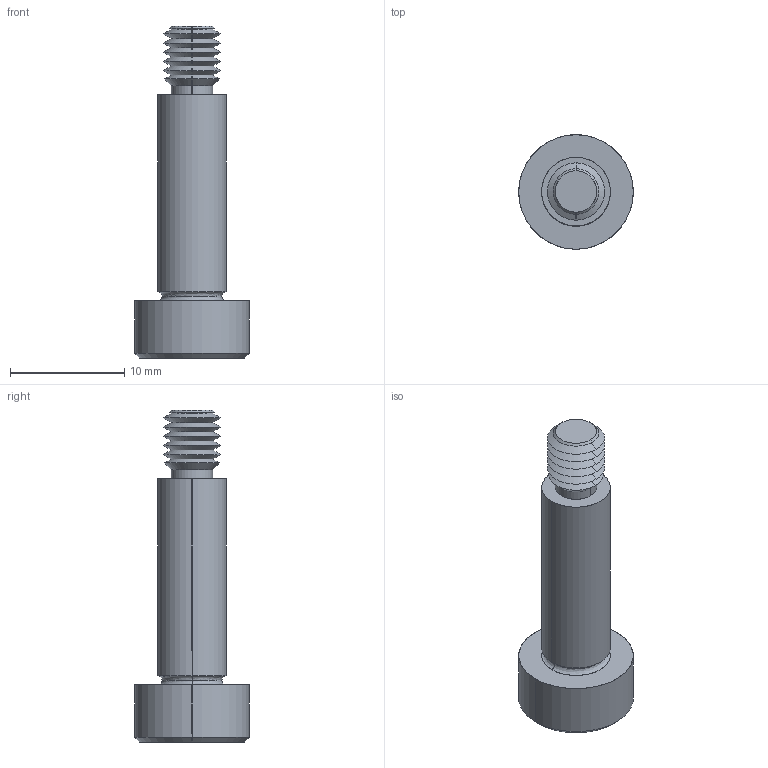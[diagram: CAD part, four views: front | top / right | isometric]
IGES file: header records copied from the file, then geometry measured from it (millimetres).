
Start section: SolidWorks IGES file using analytic representation for surfaces
Global section: file name: C:\Users\IanO\Documents\Temp Folder\GENERAL\SCREW REVISION\P0130_v2\P0130.T5_v2_20220106_IGES\P0130.060-018-T5.igs; native system: SolidWorks 2019; preprocessor: SolidWorks 2019; author: IanO; date: 220106.222412; units: millimetre
Bounding box: 10 x 10 x 29 mm (x, y, z)
Surface area: 826.9 mm2 (no closed solid volume)
Topology: 0 solids, 0 shells, 64 faces, 504 edges, 502 vertices
Faces by surface type: revolution 44, bspline 20
